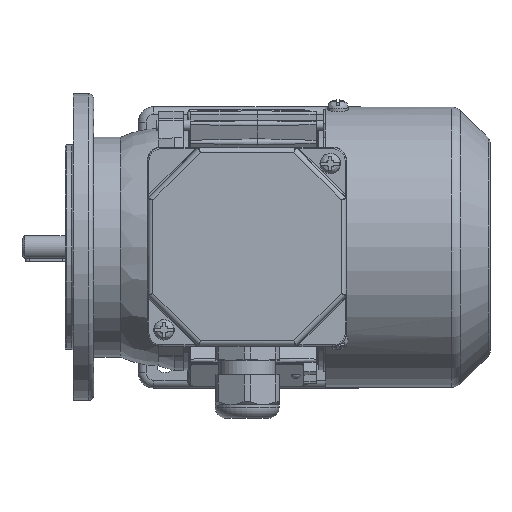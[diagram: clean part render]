
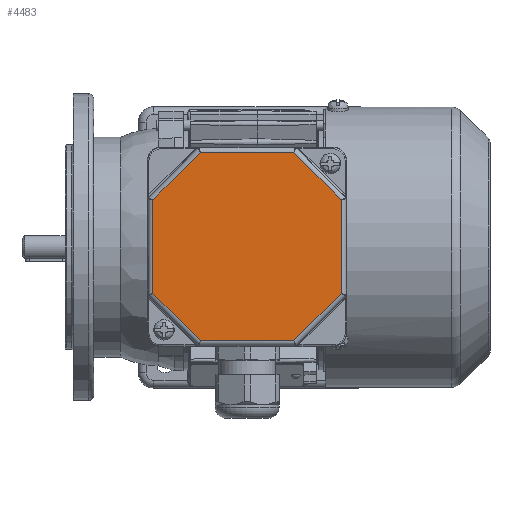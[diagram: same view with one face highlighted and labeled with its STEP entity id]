
A CAD part, top view. The second image highlights one B-rep face of the part: STEP entity #4483.
In plain terms, the highlighted planar face has unit normal (0, 0, 1).
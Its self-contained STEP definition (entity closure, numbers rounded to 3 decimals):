
#4483 = ADVANCED_FACE( '', ( #9510 ), #9511, .T. );
#9510 = FACE_OUTER_BOUND( '', #19777, .T. );
#9511 = PLANE( '', #19778 );
#19777 = EDGE_LOOP( '', ( #36867, #36868, #36869, #36870, #36871, #36872, #36873, #36874 ) );
#19778 = AXIS2_PLACEMENT_3D( '', #36875, #36876, #36877 );
#36867 = ORIENTED_EDGE( '', *, *, #46980, .T. );
#36868 = ORIENTED_EDGE( '', *, *, #44507, .T. );
#36869 = ORIENTED_EDGE( '', *, *, #43642, .T. );
#36870 = ORIENTED_EDGE( '', *, *, #47951, .T. );
#36871 = ORIENTED_EDGE( '', *, *, #43044, .T. );
#36872 = ORIENTED_EDGE( '', *, *, #47952, .T. );
#36873 = ORIENTED_EDGE( '', *, *, #46090, .T. );
#36874 = ORIENTED_EDGE( '', *, *, #44211, .T. );
#36875 = CARTESIAN_POINT( '', ( -39., 39., 12. ) );
#36876 = DIRECTION( '', ( 0., 0., 1. ) );
#36877 = DIRECTION( '', ( 1., 0., 0. ) );
#43044 = EDGE_CURVE( '', #49384, #49385, #49386, .F. );
#43642 = EDGE_CURVE( '', #50453, #50454, #50455, .F. );
#44211 = EDGE_CURVE( '', #51450, #51448, #51451, .T. );
#44507 = EDGE_CURVE( '', #51949, #50453, #51950, .T. );
#46090 = EDGE_CURVE( '', #54497, #51450, #54498, .F. );
#46980 = EDGE_CURVE( '', #51448, #51949, #55843, .F. );
#47951 = EDGE_CURVE( '', #50454, #49384, #57088, .T. );
#47952 = EDGE_CURVE( '', #49385, #54497, #57089, .T. );
#49384 = VERTEX_POINT( '', #58599 );
#49385 = VERTEX_POINT( '', #58600 );
#49386 = LINE( '', #58601, #58602 );
#50453 = VERTEX_POINT( '', #60469 );
#50454 = VERTEX_POINT( '', #60470 );
#50455 = LINE( '', #60471, #60472 );
#51448 = VERTEX_POINT( '', #62587 );
#51450 = VERTEX_POINT( '', #62589 );
#51451 = LINE( '', #62590, #62591 );
#51949 = VERTEX_POINT( '', #63750 );
#51950 = LINE( '', #63751, #63752 );
#54497 = VERTEX_POINT( '', #69324 );
#54498 = LINE( '', #69325, #69326 );
#55843 = LINE( '', #72125, #72126 );
#57088 = LINE( '', #75595, #75596 );
#57089 = LINE( '', #75597, #75598 );
#58599 = CARTESIAN_POINT( '', ( -36.825, 18.255, 12. ) );
#58600 = CARTESIAN_POINT( '', ( -36.825, -18.255, 12. ) );
#58601 = CARTESIAN_POINT( '', ( -36.825, -19.069, 12. ) );
#58602 = VECTOR( '', #79116, 1000. );
#60469 = CARTESIAN_POINT( '', ( 18.255, 36.825, 12. ) );
#60470 = CARTESIAN_POINT( '', ( -18.255, 36.825, 12. ) );
#60471 = CARTESIAN_POINT( '', ( -19.069, 36.825, 12. ) );
#60472 = VECTOR( '', #79865, 1000. );
#62587 = CARTESIAN_POINT( '', ( 36.825, -18.255, 12. ) );
#62589 = CARTESIAN_POINT( '', ( 18.255, -36.825, 12. ) );
#62590 = CARTESIAN_POINT( '', ( 37.401, -17.679, 12. ) );
#62591 = VECTOR( '', #80548, 1000. );
#63750 = CARTESIAN_POINT( '', ( 36.825, 18.255, 12. ) );
#63751 = CARTESIAN_POINT( '', ( 17.679, 37.401, 12. ) );
#63752 = VECTOR( '', #80944, 1000. );
#69324 = CARTESIAN_POINT( '', ( -18.255, -36.825, 12. ) );
#69325 = CARTESIAN_POINT( '', ( 19.069, -36.825, 12. ) );
#69326 = VECTOR( '', #83120, 1000. );
#72125 = CARTESIAN_POINT( '', ( 36.825, 19.069, 12. ) );
#72126 = VECTOR( '', #84394, 1000. );
#75595 = CARTESIAN_POINT( '', ( -37.401, 17.679, 12. ) );
#75596 = VECTOR( '', #85315, 1000. );
#75597 = CARTESIAN_POINT( '', ( -17.679, -37.401, 12. ) );
#75598 = VECTOR( '', #85316, 1000. );
#79116 = DIRECTION( '', ( 0., 1., 0. ) );
#79865 = DIRECTION( '', ( 1., 0., 0. ) );
#80548 = DIRECTION( '', ( 0.707, 0.707, 0. ) );
#80944 = DIRECTION( '', ( -0.707, 0.707, 0. ) );
#83120 = DIRECTION( '', ( -1., 0., 0. ) );
#84394 = DIRECTION( '', ( 0., -1., 0. ) );
#85315 = DIRECTION( '', ( -0.707, -0.707, 0. ) );
#85316 = DIRECTION( '', ( 0.707, -0.707, 0. ) );
